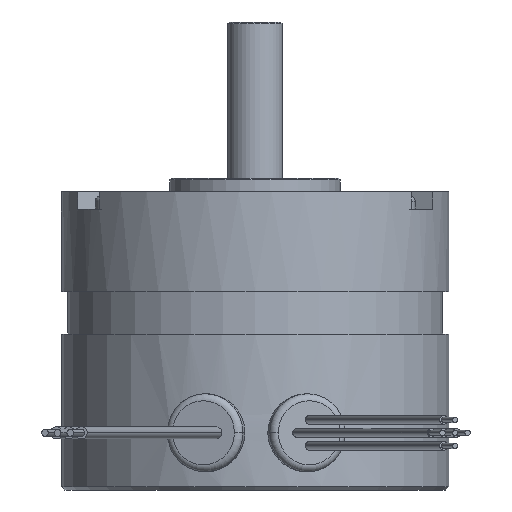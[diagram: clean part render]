
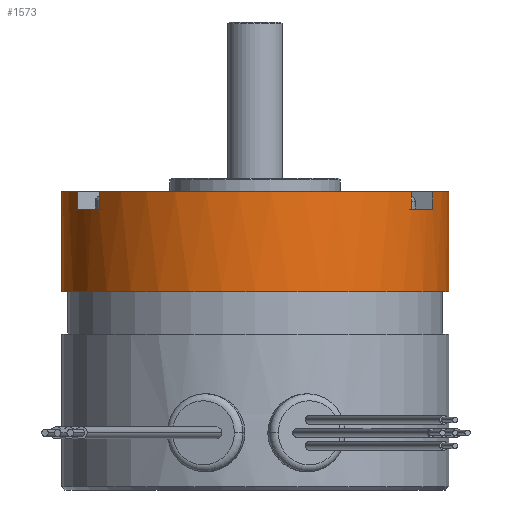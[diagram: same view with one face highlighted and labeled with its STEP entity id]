
A CAD part, front view. The second image highlights one B-rep face of the part: STEP entity #1573.
In plain terms, the highlighted cylindrical face has radius 28.397 mm (diameter 56.794 mm), a partial arc.
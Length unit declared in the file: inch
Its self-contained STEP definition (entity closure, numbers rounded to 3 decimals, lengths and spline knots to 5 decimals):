
#2 = VERTEX_POINT ( 'NONE', #9071 ) ;
#81 = CARTESIAN_POINT ( 'NONE',  ( 1.118, 0., 0. ) ) ;
#167 = ORIENTED_EDGE ( 'NONE', *, *, #686, .T. ) ;
#178 = DIRECTION ( 'NONE',  ( 0., 0., 1. ) ) ;
#229 = CARTESIAN_POINT ( 'NONE',  ( -1.02465, -0.44724, 0. ) ) ;
#275 = VERTEX_POINT ( 'NONE', #7315 ) ;
#282 = AXIS2_PLACEMENT_3D ( 'NONE', #8971, #1504, #7953 ) ;
#308 = DIRECTION ( 'NONE',  ( 0., 0., -1. ) ) ;
#365 = EDGE_CURVE ( 'NONE', #2443, #7288, #5898, .T. ) ;
#437 = EDGE_CURVE ( 'NONE', #7889, #4663, #12035, .T. ) ;
#514 = VECTOR ( 'NONE', #178, 39.37008 ) ;
#644 = EDGE_CURVE ( 'NONE', #2639, #8595, #3358, .T. ) ;
#686 = EDGE_CURVE ( 'NONE', #11788, #3115, #7384, .T. ) ;
#772 = EDGE_CURVE ( 'NONE', #884, #2, #9487, .T. ) ;
#812 = EDGE_CURVE ( 'NONE', #4663, #3115, #9020, .T. ) ;
#813 = EDGE_CURVE ( 'NONE', #2639, #7889, #9321, .T. ) ;
#829 = EDGE_CURVE ( 'NONE', #7288, #8595, #3731, .T. ) ;
#846 = EDGE_CURVE ( 'NONE', #884, #2443, #11603, .T. ) ;
#849 = VECTOR ( 'NONE', #12688, 39.37008 ) ;
#884 = VERTEX_POINT ( 'NONE', #229 ) ;
#1135 = CARTESIAN_POINT ( 'NONE',  ( 0., 0., -0.1 ) ) ;
#1409 = DIRECTION ( 'NONE',  ( 0., 0., -1. ) ) ;
#1504 = DIRECTION ( 'NONE',  ( 0., 0., -1. ) ) ;
#1573 = ADVANCED_FACE ( 'NONE', ( #8676 ), #12319, .T. ) ;
#1942 = LINE ( 'NONE', #81, #4805 ) ;
#1975 = DIRECTION ( 'NONE',  ( 0., 0., -1. ) ) ;
#2443 = VERTEX_POINT ( 'NONE', #9915 ) ;
#2452 = VERTEX_POINT ( 'NONE', #5805 ) ;
#2521 = CARTESIAN_POINT ( 'NONE',  ( 0., 0., 0. ) ) ;
#2571 = ORIENTED_EDGE ( 'NONE', *, *, #812, .F. ) ;
#2639 = VERTEX_POINT ( 'NONE', #6555 ) ;
#2704 = EDGE_LOOP ( 'NONE', ( #2775, #167, #2571, #5848, #7454, #5979, #3868, #6160, #2830, #10604, #4197, #4258 ) ) ;
#2775 = ORIENTED_EDGE ( 'NONE', *, *, #7736, .F. ) ;
#2830 = ORIENTED_EDGE ( 'NONE', *, *, #846, .F. ) ;
#3009 = DIRECTION ( 'NONE',  ( 0., 0., -1. ) ) ;
#3100 = DIRECTION ( 'NONE',  ( 0., 0., -1. ) ) ;
#3104 = CARTESIAN_POINT ( 'NONE',  ( 0., 0., -0.575 ) ) ;
#3115 = VERTEX_POINT ( 'NONE', #7682 ) ;
#3189 = CARTESIAN_POINT ( 'NONE',  ( 1.02465, -0.44724, -0.1 ) ) ;
#3358 = CIRCLE ( 'NONE', #13152, 1.118 ) ;
#3731 = LINE ( 'NONE', #5297, #514 ) ;
#3868 = ORIENTED_EDGE ( 'NONE', *, *, #829, .F. ) ;
#4081 = CARTESIAN_POINT ( 'NONE',  ( 1.02465, -0.44724, 0. ) ) ;
#4172 = DIRECTION ( 'NONE',  ( -1., 0., 0. ) ) ;
#4197 = ORIENTED_EDGE ( 'NONE', *, *, #6320, .T. ) ;
#4258 = ORIENTED_EDGE ( 'NONE', *, *, #9423, .F. ) ;
#4663 = VERTEX_POINT ( 'NONE', #3189 ) ;
#4805 = VECTOR ( 'NONE', #6578, 39.37008 ) ;
#4856 = DIRECTION ( 'NONE',  ( -1., 0., 0. ) ) ;
#5044 = DIRECTION ( 'NONE',  ( 0., 0., -1. ) ) ;
#5202 = CARTESIAN_POINT ( 'NONE',  ( 0., 0., 0. ) ) ;
#5204 = AXIS2_PLACEMENT_3D ( 'NONE', #1135, #5705, #8516 ) ;
#5297 = CARTESIAN_POINT ( 'NONE',  ( -0.89965, -0.66375, 0. ) ) ;
#5467 = AXIS2_PLACEMENT_3D ( 'NONE', #5202, #5044, #4856 ) ;
#5635 = CARTESIAN_POINT ( 'NONE',  ( -0.89965, -0.66375, 0. ) ) ;
#5656 = CARTESIAN_POINT ( 'NONE',  ( 0.89965, -0.66375, -0.1 ) ) ;
#5691 = CIRCLE ( 'NONE', #7807, 1.118 ) ;
#5705 = DIRECTION ( 'NONE',  ( 0., 0., 1. ) ) ;
#5804 = DIRECTION ( 'NONE',  ( 0., 0., 1. ) ) ;
#5805 = CARTESIAN_POINT ( 'NONE',  ( 1.118, 0., -0.575 ) ) ;
#5848 = ORIENTED_EDGE ( 'NONE', *, *, #437, .F. ) ;
#5898 = CIRCLE ( 'NONE', #12997, 1.118 ) ;
#5979 = ORIENTED_EDGE ( 'NONE', *, *, #644, .T. ) ;
#6160 = ORIENTED_EDGE ( 'NONE', *, *, #365, .F. ) ;
#6310 = DIRECTION ( 'NONE',  ( -1., 0., 0. ) ) ;
#6320 = EDGE_CURVE ( 'NONE', #2, #275, #13236, .T. ) ;
#6555 = CARTESIAN_POINT ( 'NONE',  ( 0.89965, -0.66375, 0. ) ) ;
#6578 = DIRECTION ( 'NONE',  ( 0., 0., -1. ) ) ;
#6596 = VECTOR ( 'NONE', #3100, 39.37008 ) ;
#6827 = DIRECTION ( 'NONE',  ( -1., 0., 0. ) ) ;
#6965 = AXIS2_PLACEMENT_3D ( 'NONE', #7486, #308, #10645 ) ;
#7288 = VERTEX_POINT ( 'NONE', #10228 ) ;
#7315 = CARTESIAN_POINT ( 'NONE',  ( -1.118, 0., -0.575 ) ) ;
#7384 = CIRCLE ( 'NONE', #282, 1.118 ) ;
#7454 = ORIENTED_EDGE ( 'NONE', *, *, #813, .F. ) ;
#7486 = CARTESIAN_POINT ( 'NONE',  ( 0., 0., 0. ) ) ;
#7682 = CARTESIAN_POINT ( 'NONE',  ( 1.02465, -0.44724, 0. ) ) ;
#7736 = EDGE_CURVE ( 'NONE', #11788, #2452, #1942, .T. ) ;
#7807 = AXIS2_PLACEMENT_3D ( 'NONE', #3104, #10400, #4172 ) ;
#7889 = VERTEX_POINT ( 'NONE', #5656 ) ;
#7953 = DIRECTION ( 'NONE',  ( -1., 0., 0. ) ) ;
#8365 = CARTESIAN_POINT ( 'NONE',  ( 1.118, 0., 0. ) ) ;
#8516 = DIRECTION ( 'NONE',  ( -1., 0., 0. ) ) ;
#8595 = VERTEX_POINT ( 'NONE', #5635 ) ;
#8676 = FACE_OUTER_BOUND ( 'NONE', #2704, .T. ) ;
#8698 = VECTOR ( 'NONE', #3009, 39.37008 ) ;
#8971 = CARTESIAN_POINT ( 'NONE',  ( 0., 0., 0. ) ) ;
#9020 = LINE ( 'NONE', #4081, #849 ) ;
#9071 = CARTESIAN_POINT ( 'NONE',  ( -1.118, 0., 0. ) ) ;
#9321 = LINE ( 'NONE', #12823, #6596 ) ;
#9391 = CARTESIAN_POINT ( 'NONE',  ( -1.118, 0., 0. ) ) ;
#9423 = EDGE_CURVE ( 'NONE', #2452, #275, #5691, .T. ) ;
#9487 = CIRCLE ( 'NONE', #6965, 1.118 ) ;
#9915 = CARTESIAN_POINT ( 'NONE',  ( -1.02465, -0.44724, -0.1 ) ) ;
#10228 = CARTESIAN_POINT ( 'NONE',  ( -0.89965, -0.66375, -0.1 ) ) ;
#10400 = DIRECTION ( 'NONE',  ( 0., 0., -1. ) ) ;
#10604 = ORIENTED_EDGE ( 'NONE', *, *, #772, .T. ) ;
#10645 = DIRECTION ( 'NONE',  ( -1., 0., 0. ) ) ;
#11343 = CARTESIAN_POINT ( 'NONE',  ( 0., 0., -0.1 ) ) ;
#11603 = LINE ( 'NONE', #12987, #8698 ) ;
#11788 = VERTEX_POINT ( 'NONE', #8365 ) ;
#11914 = VECTOR ( 'NONE', #1975, 39.37008 ) ;
#12035 = CIRCLE ( 'NONE', #5204, 1.118 ) ;
#12319 = CYLINDRICAL_SURFACE ( 'NONE', #5467, 1.118 ) ;
#12688 = DIRECTION ( 'NONE',  ( 0., 0., 1. ) ) ;
#12823 = CARTESIAN_POINT ( 'NONE',  ( 0.89965, -0.66375, 0. ) ) ;
#12987 = CARTESIAN_POINT ( 'NONE',  ( -1.02465, -0.44724, 0. ) ) ;
#12997 = AXIS2_PLACEMENT_3D ( 'NONE', #11343, #5804, #6310 ) ;
#13152 = AXIS2_PLACEMENT_3D ( 'NONE', #2521, #1409, #6827 ) ;
#13236 = LINE ( 'NONE', #9391, #11914 ) ;
